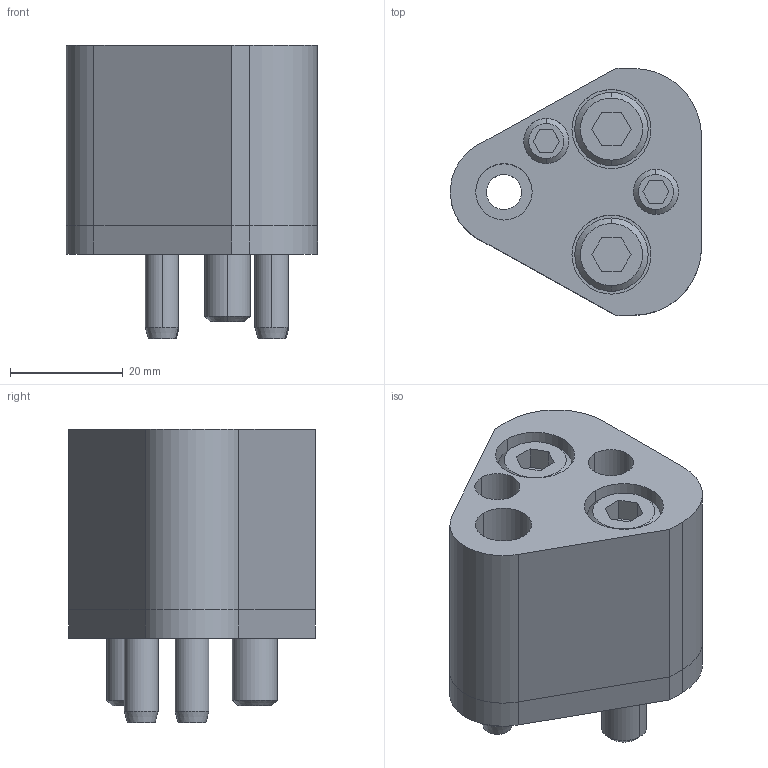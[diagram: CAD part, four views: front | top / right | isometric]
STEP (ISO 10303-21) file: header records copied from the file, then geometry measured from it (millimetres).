
FILE_DESCRIPTION(/* description */ (''),/* implementation_level */ '2;1');
FILE_NAME(/* name */ '3d_crn-ap10_03624_r00.stp',/* time_stamp */ '2011-01-10T14:16:24+09:00',/* author */ ('MISUMI'),/* organization */ (''),/* preprocessor_version */ 'ST-DEVELOPER v11',/* originating_system */ 'UGS - NX 5.0',/* authorisation */ '');
FILE_SCHEMA (('CONFIG_CONTROL_DESIGN'));
Length unit declared in the file: millimetre
Products named in the file (1): 3d_crn-ap10_03624_r00
Bounding box: 44.47 x 43.7 x 52 mm (x, y, z)
Volume: 47135.6 mm3; surface area: 20284.7 mm2
Topology: 8 solids, 8 shells, 155 faces, 348 edges, 224 vertices
Faces by surface type: plane 67, cylinder 62, cone 26
Entity records: 4494 total; most frequent: DIRECTION 804, CARTESIAN_POINT 782, ORIENTED_EDGE 696, EDGE_CURVE 348, AXIS2_PLACEMENT_3D 306, VERTEX_POINT 224, LINE 192, VECTOR 192
